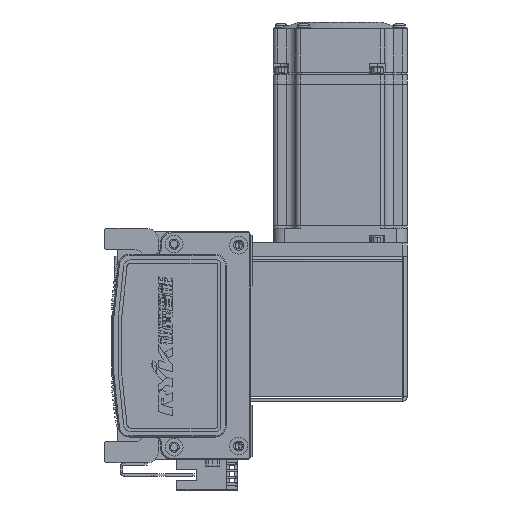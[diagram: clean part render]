
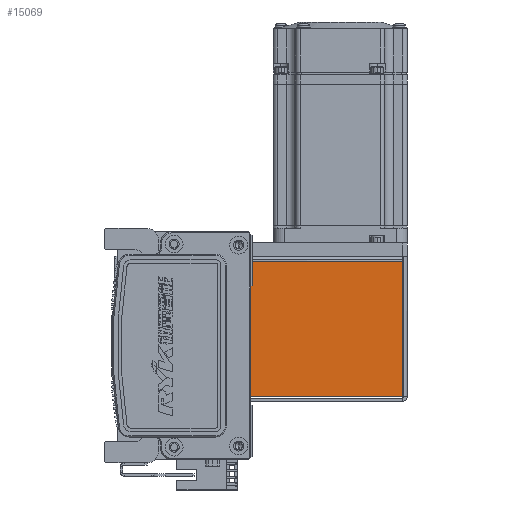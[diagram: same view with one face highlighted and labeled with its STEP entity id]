
A CAD part, left-side view. The second image highlights one B-rep face of the part: STEP entity #15069.
In plain terms, the highlighted planar face has unit normal (-1, 0, 0) as drawn and (0, 0, 1) by its records, which use the part's own axes.
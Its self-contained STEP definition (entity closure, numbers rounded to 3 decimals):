
#6526 = CARTESIAN_POINT ( 'NONE',  ( 0., 0., 35. ) ) ;
#6759 = FACE_OUTER_BOUND ( 'NONE', #62894, .T. ) ;
#7839 = CARTESIAN_POINT ( 'NONE',  ( 30.263, 72.5, 35. ) ) ;
#7933 = EDGE_CURVE ( 'NONE', #51819, #64714, #13038, .T. ) ;
#10418 = VECTOR ( 'NONE', #61170, 1000. ) ;
#13038 = LINE ( 'NONE', #63639, #19570 ) ;
#13380 = VECTOR ( 'NONE', #49499, 1000. ) ;
#15069 = ADVANCED_FACE ( 'NONE', ( #6759 ), #15828, .F. ) ;
#15828 = PLANE ( 'NONE',  #15862 ) ;
#15862 = AXIS2_PLACEMENT_3D ( 'NONE', #6526, #52857, #21736 ) ;
#19570 = VECTOR ( 'NONE', #27093, 1000. ) ;
#21736 = DIRECTION ( 'NONE',  ( -1., 0., 0. ) ) ;
#21779 = LINE ( 'NONE', #56998, #61567 ) ;
#24237 = LINE ( 'NONE', #30750, #10418 ) ;
#27021 = CARTESIAN_POINT ( 'NONE',  ( -30.293, 0.737, 35. ) ) ;
#27093 = DIRECTION ( 'NONE',  ( -1., 0., 0. ) ) ;
#30750 = CARTESIAN_POINT ( 'NONE',  ( 0., 72.5, 35. ) ) ;
#30849 = ORIENTED_EDGE ( 'NONE', *, *, #7933, .F. ) ;
#33744 = EDGE_CURVE ( 'NONE', #64714, #49427, #21779, .T. ) ;
#36515 = ORIENTED_EDGE ( 'NONE', *, *, #61943, .T. ) ;
#47597 = VERTEX_POINT ( 'NONE', #7839 ) ;
#49427 = VERTEX_POINT ( 'NONE', #65705 ) ;
#49499 = DIRECTION ( 'NONE',  ( 0., 1., 0. ) ) ;
#51819 = VERTEX_POINT ( 'NONE', #65759 ) ;
#52208 = ORIENTED_EDGE ( 'NONE', *, *, #33744, .F. ) ;
#52857 = DIRECTION ( 'NONE',  ( 0., 0., -1. ) ) ;
#53820 = CARTESIAN_POINT ( 'NONE',  ( 30.263, 0.737, 35. ) ) ;
#56105 = DIRECTION ( 'NONE',  ( 0., 1., 0. ) ) ;
#56998 = CARTESIAN_POINT ( 'NONE',  ( -30.293, 0., 35. ) ) ;
#59110 = EDGE_CURVE ( 'NONE', #47597, #49427, #24237, .T. ) ;
#61170 = DIRECTION ( 'NONE',  ( -1., 0., 0. ) ) ;
#61567 = VECTOR ( 'NONE', #56105, 1000. ) ;
#61943 = EDGE_CURVE ( 'NONE', #51819, #47597, #66198, .T. ) ;
#62894 = EDGE_LOOP ( 'NONE', ( #36515, #66334, #52208, #30849 ) ) ;
#63639 = CARTESIAN_POINT ( 'NONE',  ( -32.5, 0.737, 35. ) ) ;
#64714 = VERTEX_POINT ( 'NONE', #27021 ) ;
#65705 = CARTESIAN_POINT ( 'NONE',  ( -30.293, 72.5, 35. ) ) ;
#65759 = CARTESIAN_POINT ( 'NONE',  ( 30.263, 0.737, 35. ) ) ;
#66198 = LINE ( 'NONE', #53820, #13380 ) ;
#66334 = ORIENTED_EDGE ( 'NONE', *, *, #59110, .T. ) ;
